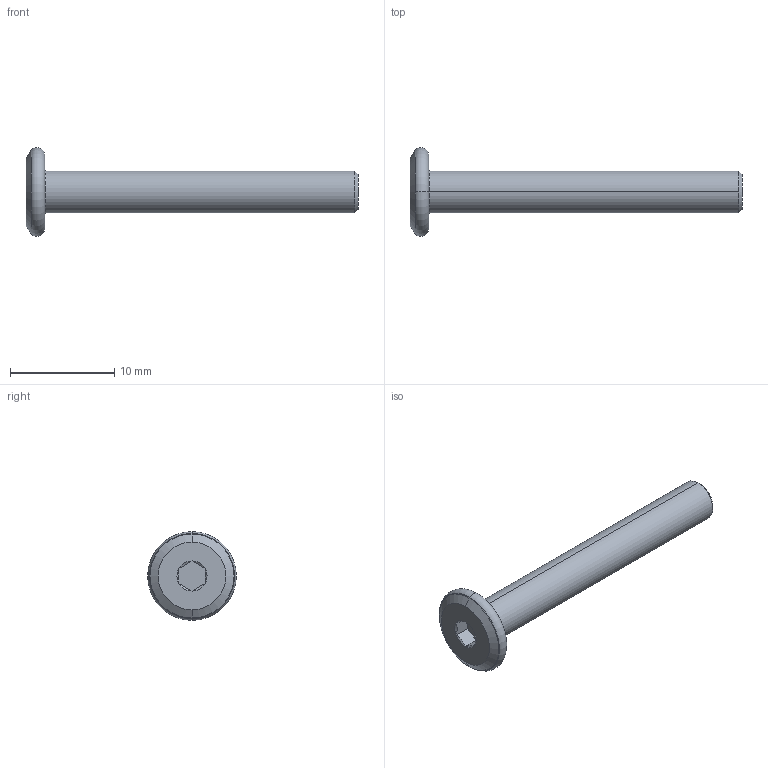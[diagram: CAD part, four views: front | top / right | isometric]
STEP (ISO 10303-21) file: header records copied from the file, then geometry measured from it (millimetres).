
FILE_DESCRIPTION (( 'STEP AP203' ), '1' );
FILE_NAME ('LGD-304D-M4x30.STEP', '2026-08-13T04:50:15', ( '' ), ( '' ), 'SwSTEP 2.0', 'SolidWorks 2020', '' );
FILE_SCHEMA (( 'CONFIG_CONTROL_DESIGN' ));
Length unit declared in the file: millimetre
Products named in the file (1): LGD-304D-M4x30
Bounding box: 31.8 x 8.5 x 8.5 mm (x, y, z)
Volume: 458.9 mm3; surface area: 524.8 mm2
Topology: 1 solids, 1 shells, 28 faces, 52 edges, 28 vertices
Faces by surface type: cone 10, plane 10, torus 6, cylinder 2
Entity records: 791 total; most frequent: CARTESIAN_POINT 151, DIRECTION 132, ORIENTED_EDGE 104, AXIS2_PLACEMENT_3D 57, EDGE_CURVE 52, EDGE_LOOP 30, CIRCLE 28, ADVANCED_FACE 28
